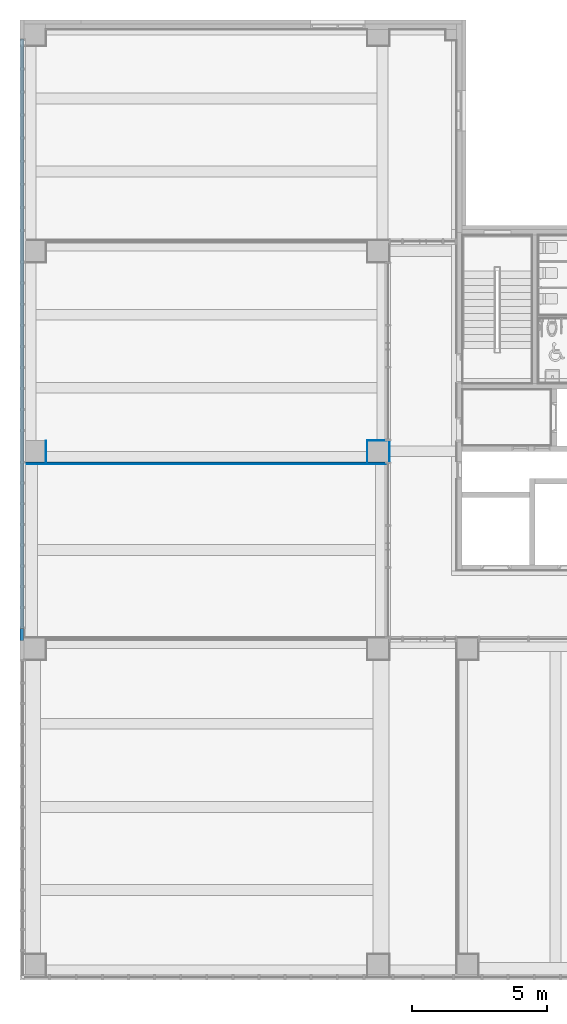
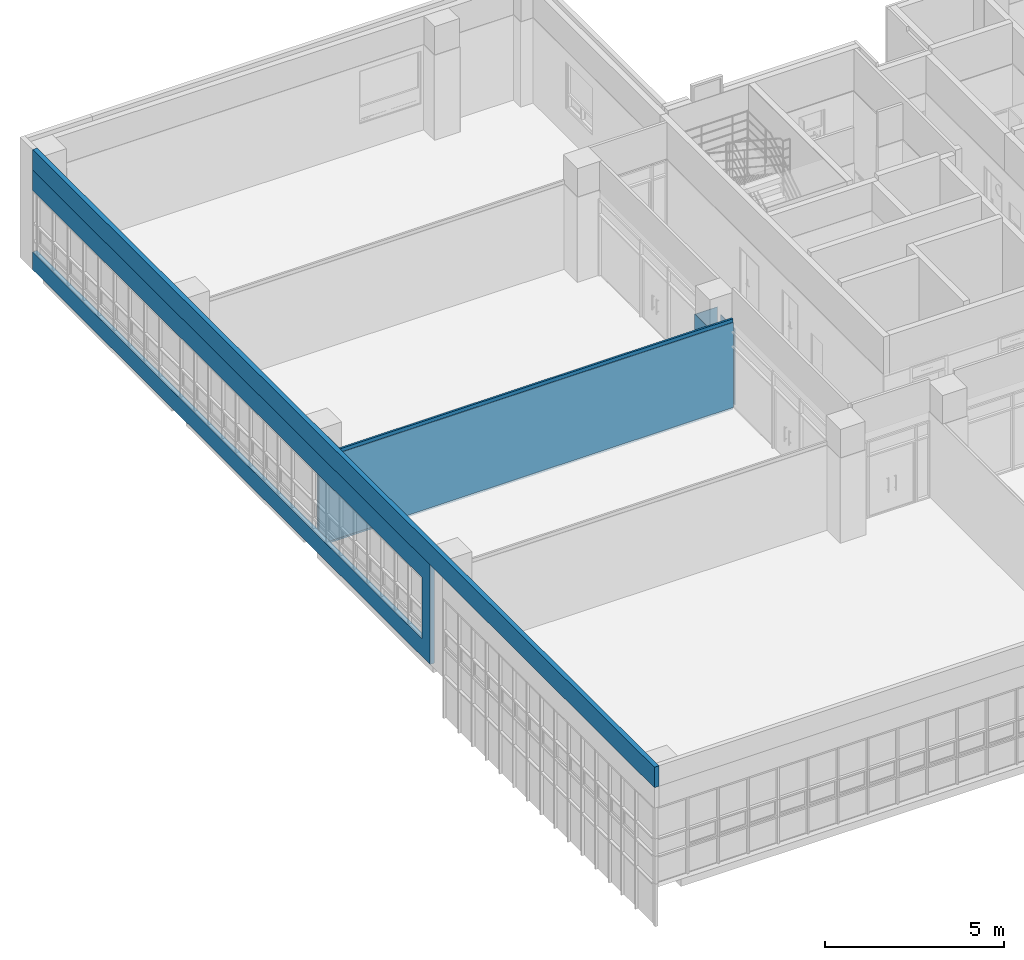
# One storey, part 50 of 81: 8 walls, 1 opening.
"""IFC2X3 building model written with IfcOpenShell, lengths in millimetres."""

from ifc_helpers import new_model, entity, si_unit, converted_unit, derived_unit, direction, frame, frame_2d, origin, place, context, subcontext, project, spatial, rectangle, extrude, material, layer, layer_set, layer_usage, type_object, element, save


model = new_model("IFC2X3")

# Units and contexts
model_context = context("Model", 3, precision=0.01, world=origin(), true_north=direction((6.123031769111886e-17, 1.0)))
body_context = subcontext(model_context, "Body", "Model", "MODEL_VIEW")
ifc_project = project(units=[si_unit("LENGTHUNIT", "METRE", prefix="MILLI"), si_unit("AREAUNIT", "SQUARE_METRE"), si_unit("VOLUMEUNIT", "CUBIC_METRE"), converted_unit("PLANEANGLEUNIT", "DEGREE", entity("IfcRatioMeasure", 0.017453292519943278), si_unit("PLANEANGLEUNIT", "RADIAN"), dimensions=[0, 0, 0, 0, 0, 0, 0]), si_unit("MASSUNIT", "GRAM", prefix="KILO"), derived_unit("MASSDENSITYUNIT", [(si_unit("MASSUNIT", "GRAM", prefix="KILO"), 1), (si_unit("LENGTHUNIT", "METRE"), -3)]), derived_unit("MOMENTOFINERTIAUNIT", [(si_unit("LENGTHUNIT", "METRE"), 4)]), si_unit("TIMEUNIT", "SECOND"), si_unit("FREQUENCYUNIT", "HERTZ"), si_unit("THERMODYNAMICTEMPERATUREUNIT", "DEGREE_CELSIUS"), derived_unit("THERMALTRANSMITTANCEUNIT", [(si_unit("MASSUNIT", "GRAM", prefix="KILO"), 1), (si_unit("THERMODYNAMICTEMPERATUREUNIT", "KELVIN"), -1), (si_unit("TIMEUNIT", "SECOND"), -3)]), derived_unit("VOLUMETRICFLOWRATEUNIT", [(si_unit("LENGTHUNIT", "METRE"), 3), (si_unit("TIMEUNIT", "SECOND"), -1)]), derived_unit("MASSFLOWRATEUNIT", [(si_unit("MASSUNIT", "GRAM", prefix="KILO"), 1), (si_unit("TIMEUNIT", "SECOND"), -1)]), derived_unit("ROTATIONALFREQUENCYUNIT", [(si_unit("TIMEUNIT", "SECOND"), -1)]), si_unit("ELECTRICCURRENTUNIT", "AMPERE"), si_unit("ELECTRICVOLTAGEUNIT", "VOLT"), si_unit("POWERUNIT", "WATT"), si_unit("FORCEUNIT", "NEWTON", prefix="KILO"), si_unit("ILLUMINANCEUNIT", "LUX"), si_unit("LUMINOUSFLUXUNIT", "LUMEN"), si_unit("LUMINOUSINTENSITYUNIT", "CANDELA"), derived_unit("USERDEFINED", [(si_unit("MASSUNIT", "GRAM", prefix="KILO"), -1), (si_unit("LENGTHUNIT", "METRE"), -2), (si_unit("TIMEUNIT", "SECOND"), 3), (si_unit("LUMINOUSFLUXUNIT", "LUMEN"), 1)]), derived_unit("SOUNDPOWERUNIT", [(si_unit("MASSUNIT", "GRAM", prefix="KILO"), 1), (si_unit("LENGTHUNIT", "METRE"), 2), (si_unit("TIMEUNIT", "SECOND"), -3)]), derived_unit("SOUNDPRESSUREUNIT", [(si_unit("MASSUNIT", "GRAM", prefix="KILO"), 1), (si_unit("LENGTHUNIT", "METRE"), -1), (si_unit("TIMEUNIT", "SECOND"), -2)]), derived_unit("LINEARVELOCITYUNIT", [(si_unit("LENGTHUNIT", "METRE"), 1), (si_unit("TIMEUNIT", "SECOND"), -1)]), si_unit("PRESSUREUNIT", "PASCAL"), derived_unit("USERDEFINED", [(si_unit("LENGTHUNIT", "METRE"), -2), (si_unit("MASSUNIT", "GRAM", prefix="KILO"), 1), (si_unit("TIMEUNIT", "SECOND"), -2)]), derived_unit("LINEARFORCEUNIT", [(si_unit("MASSUNIT", "GRAM", prefix="KILO"), 1), (si_unit("LENGTHUNIT", "METRE"), 1), (si_unit("TIMEUNIT", "SECOND"), -2), (si_unit("LENGTHUNIT", "METRE"), -1)]), derived_unit("PLANARFORCEUNIT", [(si_unit("MASSUNIT", "GRAM", prefix="KILO"), 1), (si_unit("LENGTHUNIT", "METRE"), 1), (si_unit("TIMEUNIT", "SECOND"), -2), (si_unit("LENGTHUNIT", "METRE"), -2)])], contexts=[model_context])

# Site, building, storey
site_placement = place(None, frame((-14167.972527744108, -657.2125860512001, 0.0)))
site = spatial("IfcSite", under=ifc_project, at=site_placement, Name="Default", CompositionType="ELEMENT")
building_placement = place(site_placement, origin())
building = spatial("IfcBuilding", under=site, at=building_placement, Name="Sample Building", CompositionType="ELEMENT")
storey_placement = place(building_placement, frame((0.0, 0.0, 13400.0)))
storey = spatial("IfcBuildingStorey", under=building, at=storey_placement, Name="지상 4층", CompositionType="ELEMENT", Elevation=13400.00000000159)

# Wall, opening
ifc_material_1 = material(Name="WA240-ALC블록벽")
ifc_layer_1 = layer(ifc_material_1, 35.0)
ifc_material_2 = material(Name="WA795-(STEEL)BRACKET")
ifc_layer_2 = layer(ifc_material_2, 65.0)
ifc_material_3 = material(Name="WA821-압출스티로폼 벽 (본드붙임, 비중0.03) 50mm")
ifc_layer_3 = layer(ifc_material_3, 50.0)
ifc_layer_set_1 = layer_set([ifc_layer_1, ifc_layer_2, ifc_layer_3], Name="기본 벽:A2-22-02A-압출스티로폼, BRACKET(STEEL), ALC블록 (150mm)")
ifc_layer_usage_1 = layer_usage(ifc_layer_set_1, "AXIS2", "POSITIVE", -75.0)
wall_type_1 = type_object("IfcWallType", Name="기본 벽:A2-22-02A-압출스티로폼, BRACKET(STEEL), ALC블록 (150mm)", PredefinedType="STANDARD", material=ifc_layer_set_1)
wall_1_placement = place(storey_placement, frame((13992.955105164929, 35207.21229514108, -2.297844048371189e-09), z_axis=(0.0, 0.0, 1.0), x_axis=(0.0, -1.0, 0.0)))
wall_1 = element("IfcWallStandardCase", 1, at=wall_1_placement, inside=storey, type_object=wall_type_1, material=ifc_layer_usage_1, Name="기본 벽:A2-22-02A-압출스티로폼, BRACKET(STEEL), ALC블록 (150mm)", ObjectType="기본 벽:A2-22-02A-압출스티로폼, BRACKET(STEEL), ALC블록 (150mm)", context=body_context, shape_type="SweptSolid", body=[
    extrude(rectangle(XDim=22250.03467074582, YDim=150.00000000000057, at=frame_2d((11125.01733537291, -6.181721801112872e-13), x_axis=(-1.0, 0.0))), origin(), (0.0, 0.0, 1.0), 3400.000000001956),
])
opening_placement = place(wall_1_placement, origin())
element("IfcOpeningElement", 2, at=opening_placement, cuts=wall_1, Name="기본 벽:A2-22-02A-압출스티로폼, BRACKET(STEEL), ALC블록 (150mm)", ObjectType="Opening", context=body_context, shape_type="SweptSolid", body=[
    extrude(rectangle(XDim=2099.999999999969, YDim=21810.394588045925, at=frame_2d((-2.1600499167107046e-12, 0.0), x_axis=(1.0, 0.0))), frame((10905.19729402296, -227.40000000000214, 1650.0), z_axis=(0.0, 1.0, 0.0), x_axis=(0.0, 0.0, 1.0)), (0.0, 0.0, 1.0), 454.8000000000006),
])

# Walls
ifc_layer_usage_2 = layer_usage(ifc_layer_set_1, "AXIS2", "POSITIVE", -75.0)
wall_2_placement = place(storey_placement, frame((13992.955105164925, 35207.21229514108, 3400.0), z_axis=(0.0, 0.0, 1.0), x_axis=(0.0, -1.0, 0.0)))
element("IfcWallStandardCase", 3, at=wall_2_placement, inside=storey, type_object=wall_type_1, material=ifc_layer_usage_2, Name="기본 벽:A2-22-02A-압출스티로폼, BRACKET(STEEL), ALC블록 (150mm)", ObjectType="기본 벽:A2-22-02A-압출스티로폼, BRACKET(STEEL), ALC블록 (150mm)", context=body_context, shape_type="SweptSolid", body=[
    extrude(rectangle(XDim=34800.00000000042, YDim=150.00000000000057, at=frame_2d((17400.00000000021, 1.4210854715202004e-13), x_axis=(-1.0, 0.0))), origin(), (0.0, 0.0, 1.0), 700.0000000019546),
])
ifc_material_4 = material(Name="KBIMS-DRY WALL")
ifc_layer_4 = layer(ifc_material_4, 12.5)
ifc_material_5 = material(Name="KBIMS-경량철골벽틀")
ifc_layer_5 = layer(ifc_material_5, 50.0)
ifc_layer_set_2 = layer_set([ifc_layer_4, ifc_layer_5], Name="기본 벽:WA731-DRY WALL(C50, GS12.5mm) (1겹한면, GW50mm) 62.5mm")
ifc_layer_usage_3 = layer_usage(ifc_layer_set_2, "AXIS2", "NEGATIVE", 31.250000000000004)
wall_type_2 = type_object("IfcWallType", Name="기본 벽:WA731-DRY WALL(C50, GS12.5mm) (1겹한면, GW50mm) 62.5mm", PredefinedType="STANDARD", material=ifc_layer_set_2)
wall_3_placement = place(storey_placement, frame((14067.955105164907, 19525.9626170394, -2.297844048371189e-09)))
element("IfcWallStandardCase", 4, at=wall_3_placement, inside=storey, type_object=wall_type_2, material=ifc_layer_usage_3, Name="기본 벽:WA731-DRY WALL(C50, GS12.5mm) (1겹한면, GW50mm) 62.5mm", ObjectType="기본 벽:WA731-DRY WALL(C50, GS12.5mm) (1겹한면, GW50mm) 62.5mm", context=body_context, shape_type="SweptSolid", body=[
    extrude(rectangle(XDim=13409.99999999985, YDim=62.49999999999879, at=frame_2d((6704.999999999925, 1.099564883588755e-12), x_axis=(-1.0, 0.0))), origin(), (0.0, 0.0, 1.0), 3100.000000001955),
])
ifc_material_6 = material(Name="WA611-수성페인트 (내부) 벽 (3회)")
ifc_layer_6 = layer(ifc_material_6, 1.0)
ifc_material_7 = material(Name="WA551-시멘트모르타르 (내부) 벽 18mm")
ifc_layer_7 = layer(ifc_material_7, 16.0)
ifc_material_8 = material(Name="WA555-콘크리트면정리 벽 (내부)")
ifc_layer_8 = layer(ifc_material_8, 1.0)
ifc_layer_set_3 = layer_set([ifc_layer_6, ifc_layer_7, ifc_layer_8], Name="기본 벽:A1-32-06A-콘크리트면정리, 시멘트모르타르(미장용), 수성페인트(내부) (18mm)")
ifc_layer_usage_4 = layer_usage(ifc_layer_set_3, "AXIS2", "NEGATIVE", 9.000000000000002)
wall_type_3 = type_object("IfcWallType", Name="기본 벽:A1-32-06A-콘크리트면정리, 시멘트모르타르(미장용), 수성페인트(내부) (18mm)", PredefinedType="STANDARD", material=ifc_layer_set_3)
wall_4_placement = place(storey_placement, frame((26758.9725095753, 19557.212617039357, 80.0), z_axis=(0.0, 0.0, 1.0), x_axis=(0.0, 1.0, 0.0)))
element("IfcWallStandardCase", 5, at=wall_4_placement, inside=storey, type_object=wall_type_3, material=ifc_layer_usage_4, Name="기본 벽:A1-32-06A-콘크리트면정리, 시멘트모르타르(미장용), 수성페인트(내부) (18mm)", ObjectType="기본 벽:A1-32-06A-콘크리트면정리, 시멘트모르타르(미장용), 수성페인트(내부) (18mm)", context=body_context, shape_type="SweptSolid", body=[
    extrude(rectangle(XDim=817.9992819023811, YDim=18.00000000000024, at=frame_2d((408.99964095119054, -2.1662671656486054e-12), x_axis=(-1.0, 0.0))), origin(), (0.0, 0.0, 1.0), 2899.999999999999),
])
ifc_layer_usage_5 = layer_usage(ifc_layer_set_3, "AXIS2", "NEGATIVE", 9.000000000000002)
wall_5_placement = place(storey_placement, frame((26767.9725095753, 20366.21189894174, 80.0)))
element("IfcWallStandardCase", 6, at=wall_5_placement, inside=storey, type_object=wall_type_3, material=ifc_layer_usage_5, Name="기본 벽:A1-32-06A-콘크리트면정리, 시멘트모르타르(미장용), 수성페인트(내부) (18mm)", ObjectType="기본 벽:A1-32-06A-콘크리트면정리, 시멘트모르타르(미장용), 수성페인트(내부) (18mm)", context=body_context, shape_type="SweptSolid", body=[
    extrude(rectangle(XDim=710.9999999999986, YDim=18.00000000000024, at=frame_2d((355.4999999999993, -2.1662671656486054e-12), x_axis=(-1.0, 0.0))), origin(), (0.0, 0.0, 1.0), 2899.999999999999),
])
ifc_layer_usage_6 = layer_usage(ifc_layer_set_3, "AXIS2", "POSITIVE", -9.000000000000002)
wall_6_placement = place(storey_placement, frame((14085.972570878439, 19485.7126170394, 80.0)))
element("IfcWallStandardCase", 7, at=wall_6_placement, inside=storey, type_object=wall_type_3, material=ifc_layer_usage_6, Name="기본 벽:A1-32-06A-콘크리트면정리, 시멘트모르타르(미장용), 수성페인트(내부) (18mm)", ObjectType="기본 벽:A1-32-06A-콘크리트면정리, 시멘트모르타르(미장용), 수성페인트(내부) (18mm)", context=body_context, shape_type="SweptSolid", body=[
    extrude(rectangle(XDim=13392.126544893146, YDim=18.00000000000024, at=frame_2d((6696.063272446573, 8.881784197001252e-16), x_axis=(-1.0, 0.0))), origin(), (0.0, 0.0, 1.0), 2899.999999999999),
])
ifc_layer_usage_7 = layer_usage(ifc_layer_set_3, "AXIS2", "NEGATIVE", 9.000000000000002)
wall_7_placement = place(storey_placement, frame((14876.711441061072, 20357.21261703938, 80.0), z_axis=(0.0, 0.0, 1.0), x_axis=(0.0, -1.0, 0.0)))
element("IfcWallStandardCase", 8, at=wall_7_placement, inside=storey, type_object=wall_type_3, material=ifc_layer_usage_7, Name="기본 벽:A1-32-06A-콘크리트면정리, 시멘트모르타르(미장용), 수성페인트(내부) (18mm)", ObjectType="기본 벽:A1-32-06A-콘크리트면정리, 시멘트모르타르(미장용), 수성페인트(내부) (18mm)", context=body_context, shape_type="SweptSolid", body=[
    extrude(rectangle(XDim=799.9999999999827, YDim=18.000000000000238, at=frame_2d((399.99999999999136, 0.0), x_axis=(-1.0, 0.0))), origin(), (0.0, 0.0, 1.0), 2906.0000000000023),
])
ifc_layer_9 = layer(ifc_material_6, 1.0)
ifc_material_9 = material(Name="WA551-시멘트모르타르 (내부) 벽 24mm")
ifc_layer_10 = layer(ifc_material_9, 21.0)
ifc_material_10 = material(Name="WA961-바닥방수 연장")
ifc_layer_11 = layer(ifc_material_10, 1.0)
ifc_layer_12 = layer(ifc_material_8, 1.0)
ifc_layer_set_4 = layer_set([ifc_layer_9, ifc_layer_10, ifc_layer_11, ifc_layer_12], Name="기본 벽:A1-32-07A-콘크리트면정리, 바닥방수연장, 시멘트모르타르(미장용), 수성페인트(내부) (24mm)")
ifc_layer_usage_8 = layer_usage(ifc_layer_set_4, "AXIS2", "NEGATIVE", 12.000000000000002)
wall_type_4 = type_object("IfcWallType", Name="기본 벽:A1-32-07A-콘크리트면정리, 바닥방수연장, 시멘트모르타르(미장용), 수성페인트(내부) (24mm)", PredefinedType="STANDARD", material=ifc_layer_set_4)
wall_8_placement = place(storey_placement, frame((27579.97250957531, 20357.177215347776, 80.0), z_axis=(0.0, 0.0, 1.0), x_axis=(0.0, -1.0, 0.0)))
element("IfcWallStandardCase", 9, at=wall_8_placement, inside=storey, type_object=wall_type_4, material=ifc_layer_usage_8, Name="기본 벽:A1-32-07A-콘크리트면정리, 바닥방수연장, 시멘트모르타르(미장용), 수성페인트(내부) (24mm)", ObjectType="기본 벽:A1-32-07A-콘크리트면정리, 바닥방수연장, 시멘트모르타르(미장용), 수성페인트(내부) (24mm)", context=body_context, shape_type="SweptSolid", body=[
    extrude(rectangle(XDim=800.0, YDim=23.999999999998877, at=frame_2d((400.0, 2.1662671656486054e-12), x_axis=(-1.0, 0.0))), origin(), (0.0, 0.0, 1.0), 2599.999999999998),
])

save(model, "model.ifc")
